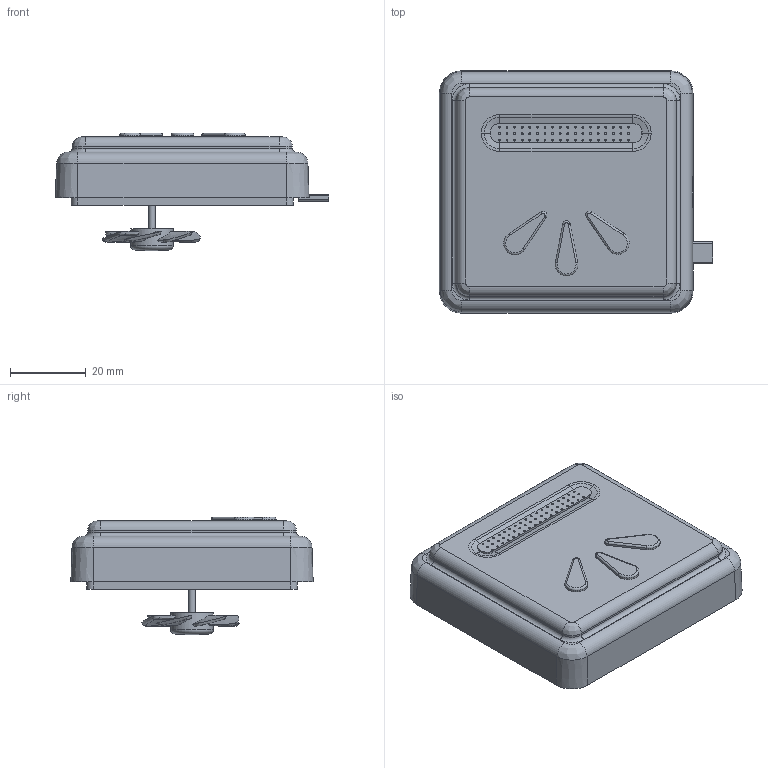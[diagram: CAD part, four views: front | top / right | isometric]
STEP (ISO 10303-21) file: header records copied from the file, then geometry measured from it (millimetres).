
FILE_DESCRIPTION(/* description */ (''),/* implementation_level */ '2;1');
FILE_NAME(/* name */ '教师组样题10.stp',/* time_stamp */ '2023-04-15T13:56:08+08:00',/* author */ (''),/* organization */ (''),/* preprocessor_version */ 'ST-DEVELOPER v16.7',/* originating_system */ 'SIEMENS PLM Software NX 12.0',/* authorisation */ '');
FILE_SCHEMA (('AUTOMOTIVE_DESIGN { 1 0 10303 214 3 1 1 1 }'));
Length unit declared in the file: millimetre
Products named in the file (1): 教师组样题10_stp
Bounding box: 71.99 x 63.84 x 31 mm (x, y, z)
Volume: 23170.7 mm3; surface area: 25846.1 mm2
Topology: 8 solids, 9 shells, 378 faces, 977 edges, 630 vertices
Faces by surface type: cylinder 151, plane 120, bspline 65, torus 23, cone 12, sphere 7
Full cylindrical faces by diameter (mm): 0.5 x54, 1.764 x3, 3 x4, 3.683 x1, 3.92 x1, 4 x4, 6 x4, 8.96 x1, 11.2 x1
Entity records: 14275 total; most frequent: CARTESIAN_POINT 5385, ORIENTED_EDGE 1778, DIRECTION 1723, EDGE_CURVE 889, AXIS2_PLACEMENT_3D 699, VERTEX_POINT 619, EDGE_LOOP 596, ADVANCED_FACE 378
